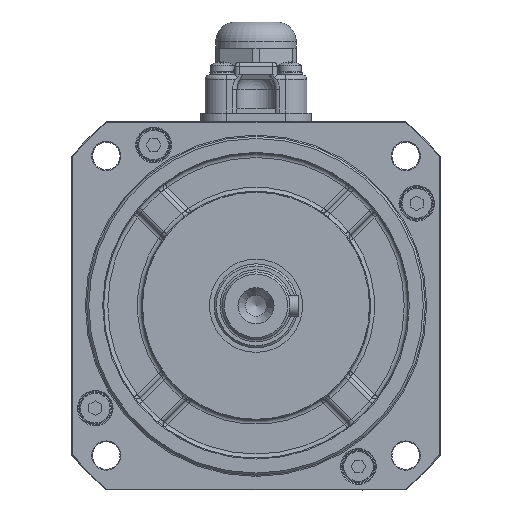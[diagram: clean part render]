
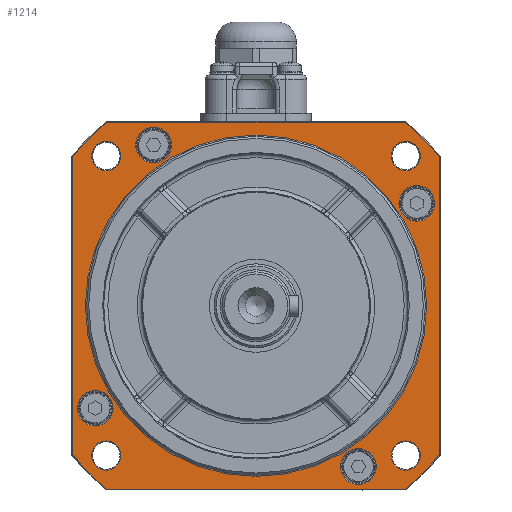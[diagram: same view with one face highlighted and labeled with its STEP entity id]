
A CAD part, front view. The second image highlights one B-rep face of the part: STEP entity #1214.
In plain terms, the highlighted planar face has unit normal (0, -1, 0).
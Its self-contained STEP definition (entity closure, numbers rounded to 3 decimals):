
#1214=ADVANCED_FACE('',(#4170,#4171,#4172,#4173,#4174,#4175,#4176,#4177,#4178,#4179),#4180,.T.);
#4170=FACE_BOUND('',#11597,.T.);
#4171=FACE_BOUND('',#11598,.T.);
#4172=FACE_BOUND('',#11599,.T.);
#4173=FACE_BOUND('',#11600,.T.);
#4174=FACE_BOUND('',#11601,.T.);
#4175=FACE_BOUND('',#11602,.T.);
#4176=FACE_BOUND('',#11603,.T.);
#4177=FACE_BOUND('',#11604,.T.);
#4178=FACE_BOUND('',#11605,.T.);
#4179=FACE_OUTER_BOUND('',#11606,.T.);
#4180=PLANE('',#11607);
#11597=EDGE_LOOP('',(#22945));
#11598=EDGE_LOOP('',(#22946));
#11599=EDGE_LOOP('',(#22947));
#11600=EDGE_LOOP('',(#22948));
#11601=EDGE_LOOP('',(#22949));
#11602=EDGE_LOOP('',(#22950));
#11603=EDGE_LOOP('',(#22951));
#11604=EDGE_LOOP('',(#22952));
#11605=EDGE_LOOP('',(#22953));
#11606=EDGE_LOOP('',(#22954,#22955,#22956,#22957,#22958,#22959,#22960,#22961));
#11607=AXIS2_PLACEMENT_3D('',#22962,#22963,#22964);
#22945=ORIENTED_EDGE('',*,*,#30621,.T.);
#22946=ORIENTED_EDGE('',*,*,#30622,.T.);
#22947=ORIENTED_EDGE('',*,*,#30623,.T.);
#22948=ORIENTED_EDGE('',*,*,#30558,.T.);
#22949=ORIENTED_EDGE('',*,*,#30624,.T.);
#22950=ORIENTED_EDGE('',*,*,#30625,.T.);
#22951=ORIENTED_EDGE('',*,*,#30626,.T.);
#22952=ORIENTED_EDGE('',*,*,#30627,.T.);
#22953=ORIENTED_EDGE('',*,*,#30628,.T.);
#22954=ORIENTED_EDGE('',*,*,#30629,.T.);
#22955=ORIENTED_EDGE('',*,*,#29123,.T.);
#22956=ORIENTED_EDGE('',*,*,#30630,.T.);
#22957=ORIENTED_EDGE('',*,*,#30631,.T.);
#22958=ORIENTED_EDGE('',*,*,#30632,.T.);
#22959=ORIENTED_EDGE('',*,*,#29046,.T.);
#22960=ORIENTED_EDGE('',*,*,#30633,.T.);
#22961=ORIENTED_EDGE('',*,*,#30634,.T.);
#22962=CARTESIAN_POINT('',(0.,-135.5,0.));
#22963=DIRECTION('',(0.,-1.0,0.));
#22964=DIRECTION('',(-1.0,0.,0.0));
#29046=EDGE_CURVE('',#34300,#34304,#34306,.T.);
#29123=EDGE_CURVE('',#34449,#34451,#34453,.T.);
#30558=EDGE_CURVE('',#36700,#36700,#36701,.T.);
#30621=EDGE_CURVE('',#36797,#36797,#36798,.T.);
#30622=EDGE_CURVE('',#36799,#36799,#36800,.T.);
#30623=EDGE_CURVE('',#36801,#36801,#36802,.T.);
#30624=EDGE_CURVE('',#36803,#36803,#36804,.T.);
#30625=EDGE_CURVE('',#36805,#36805,#36806,.T.);
#30626=EDGE_CURVE('',#36807,#36807,#36808,.T.);
#30627=EDGE_CURVE('',#36809,#36809,#36810,.T.);
#30628=EDGE_CURVE('',#36811,#36811,#36812,.T.);
#30629=EDGE_CURVE('',#36813,#34449,#36814,.T.);
#30630=EDGE_CURVE('',#34451,#36815,#36816,.T.);
#30631=EDGE_CURVE('',#36815,#36817,#36818,.T.);
#30632=EDGE_CURVE('',#36817,#34300,#36819,.T.);
#30633=EDGE_CURVE('',#34304,#36820,#36821,.T.);
#30634=EDGE_CURVE('',#36820,#36813,#36822,.T.);
#34300=VERTEX_POINT('',#43314);
#34304=VERTEX_POINT('',#43319);
#34306=LINE('',#43321,#43322);
#34449=VERTEX_POINT('',#43709);
#34451=VERTEX_POINT('',#43711);
#34453=LINE('',#43713,#43714);
#36700=VERTEX_POINT('',#47565);
#36701=CIRCLE('',#47566,4.2);
#36797=VERTEX_POINT('',#47945);
#36798=CIRCLE('',#47946,40.3);
#36799=VERTEX_POINT('',#47947);
#36800=CIRCLE('',#47948,4.2);
#36801=VERTEX_POINT('',#47949);
#36802=CIRCLE('',#47950,4.2);
#36803=VERTEX_POINT('',#47951);
#36804=CIRCLE('',#47952,4.2);
#36805=VERTEX_POINT('',#47953);
#36806=CIRCLE('',#47954,3.45);
#36807=VERTEX_POINT('',#47955);
#36808=CIRCLE('',#47956,3.45);
#36809=VERTEX_POINT('',#47957);
#36810=CIRCLE('',#47958,3.45);
#36811=VERTEX_POINT('',#47959);
#36812=CIRCLE('',#47960,3.45);
#36813=VERTEX_POINT('',#47961);
#36814=CIRCLE('',#47962,55.8);
#36815=VERTEX_POINT('',#47963);
#36816=CIRCLE('',#47964,55.8);
#36817=VERTEX_POINT('',#47965);
#36818=LINE('',#47966,#47967);
#36819=CIRCLE('',#47968,55.8);
#36820=VERTEX_POINT('',#47969);
#36821=CIRCLE('',#47970,55.8);
#36822=LINE('',#47971,#47972);
#43314=CARTESIAN_POINT('',(-35.196,-135.5,-43.3));
#43319=CARTESIAN_POINT('',(35.196,-135.5,-43.3));
#43321=CARTESIAN_POINT('',(0.,-135.5,-43.3));
#43322=VECTOR('',#52182,1.0);
#43709=CARTESIAN_POINT('',(35.196,-135.5,43.3));
#43711=CARTESIAN_POINT('',(-35.196,-135.5,43.3));
#43713=CARTESIAN_POINT('',(0.,-135.5,43.3));
#43714=VECTOR('',#52303,1.0);
#47565=CARTESIAN_POINT('',(24.178,-135.5,-33.753));
#47566=AXIS2_PLACEMENT_3D('',#54626,#54627,#54628);
#47945=CARTESIAN_POINT('',(0.,-135.5,40.3));
#47946=AXIS2_PLACEMENT_3D('',#54750,#54751,#54752);
#47947=CARTESIAN_POINT('',(-37.953,-135.5,-19.978));
#47948=AXIS2_PLACEMENT_3D('',#54753,#54754,#54755);
#47949=CARTESIAN_POINT('',(-24.178,-135.5,42.153));
#47950=AXIS2_PLACEMENT_3D('',#54756,#54757,#54758);
#47951=CARTESIAN_POINT('',(37.953,-135.5,28.378));
#47952=AXIS2_PLACEMENT_3D('',#54759,#54760,#54761);
#47953=CARTESIAN_POINT('',(-35.355,-135.5,-31.905));
#47954=AXIS2_PLACEMENT_3D('',#54762,#54763,#54764);
#47955=CARTESIAN_POINT('',(-35.355,-135.5,38.805));
#47956=AXIS2_PLACEMENT_3D('',#54765,#54766,#54767);
#47957=CARTESIAN_POINT('',(35.355,-135.5,-31.905));
#47958=AXIS2_PLACEMENT_3D('',#54768,#54769,#54770);
#47959=CARTESIAN_POINT('',(35.355,-135.5,38.805));
#47960=AXIS2_PLACEMENT_3D('',#54771,#54772,#54773);
#47961=CARTESIAN_POINT('',(43.3,-135.5,35.196));
#47962=AXIS2_PLACEMENT_3D('',#54774,#54775,#54776);
#47963=CARTESIAN_POINT('',(-43.3,-135.5,35.196));
#47964=AXIS2_PLACEMENT_3D('',#54777,#54778,#54779);
#47965=CARTESIAN_POINT('',(-43.3,-135.5,-35.196));
#47966=CARTESIAN_POINT('',(-43.3,-135.5,0.));
#47967=VECTOR('',#54780,1.0);
#47968=AXIS2_PLACEMENT_3D('',#54781,#54782,#54783);
#47969=CARTESIAN_POINT('',(43.3,-135.5,-35.196));
#47970=AXIS2_PLACEMENT_3D('',#54784,#54785,#54786);
#47971=CARTESIAN_POINT('',(43.3,-135.5,0.));
#47972=VECTOR('',#54787,1.0);
#52182=DIRECTION('',(1.0,0.,0.));
#52303=DIRECTION('',(-1.0,0.,0.));
#54626=CARTESIAN_POINT('',(24.178,-135.5,-37.953));
#54627=DIRECTION('',(0.,1.0,0.));
#54628=DIRECTION('',(0.,0.,1.0));
#54750=CARTESIAN_POINT('',(0.,-135.5,0.));
#54751=DIRECTION('',(0.,1.0,0.));
#54752=DIRECTION('',(0.,0.,1.0));
#54753=CARTESIAN_POINT('',(-37.953,-135.5,-24.178));
#54754=DIRECTION('',(0.,1.0,0.));
#54755=DIRECTION('',(0.,0.,1.0));
#54756=CARTESIAN_POINT('',(-24.178,-135.5,37.953));
#54757=DIRECTION('',(0.,1.0,0.));
#54758=DIRECTION('',(0.,0.,1.0));
#54759=CARTESIAN_POINT('',(37.953,-135.5,24.178));
#54760=DIRECTION('',(0.,1.0,0.));
#54761=DIRECTION('',(0.,0.,1.0));
#54762=CARTESIAN_POINT('',(-35.355,-135.5,-35.355));
#54763=DIRECTION('',(0.,1.0,0.));
#54764=DIRECTION('',(0.,0.,1.0));
#54765=CARTESIAN_POINT('',(-35.355,-135.5,35.355));
#54766=DIRECTION('',(0.,1.0,0.));
#54767=DIRECTION('',(0.,0.,1.0));
#54768=CARTESIAN_POINT('',(35.355,-135.5,-35.355));
#54769=DIRECTION('',(0.,1.0,0.));
#54770=DIRECTION('',(0.,0.,1.0));
#54771=CARTESIAN_POINT('',(35.355,-135.5,35.355));
#54772=DIRECTION('',(0.,1.0,0.));
#54773=DIRECTION('',(0.,0.,1.0));
#54774=CARTESIAN_POINT('',(0.,-135.5,0.));
#54775=DIRECTION('',(0.,-1.0,0.));
#54776=DIRECTION('',(0.,0.,1.0));
#54777=CARTESIAN_POINT('',(0.,-135.5,0.));
#54778=DIRECTION('',(0.,-1.0,0.));
#54779=DIRECTION('',(0.,0.,1.0));
#54780=DIRECTION('',(0.,0.,-1.0));
#54781=CARTESIAN_POINT('',(0.,-135.5,0.));
#54782=DIRECTION('',(0.,-1.0,0.));
#54783=DIRECTION('',(0.,0.,1.0));
#54784=CARTESIAN_POINT('',(0.,-135.5,0.));
#54785=DIRECTION('',(0.,-1.0,0.));
#54786=DIRECTION('',(0.,0.,1.0));
#54787=DIRECTION('',(0.,0.,1.0));
